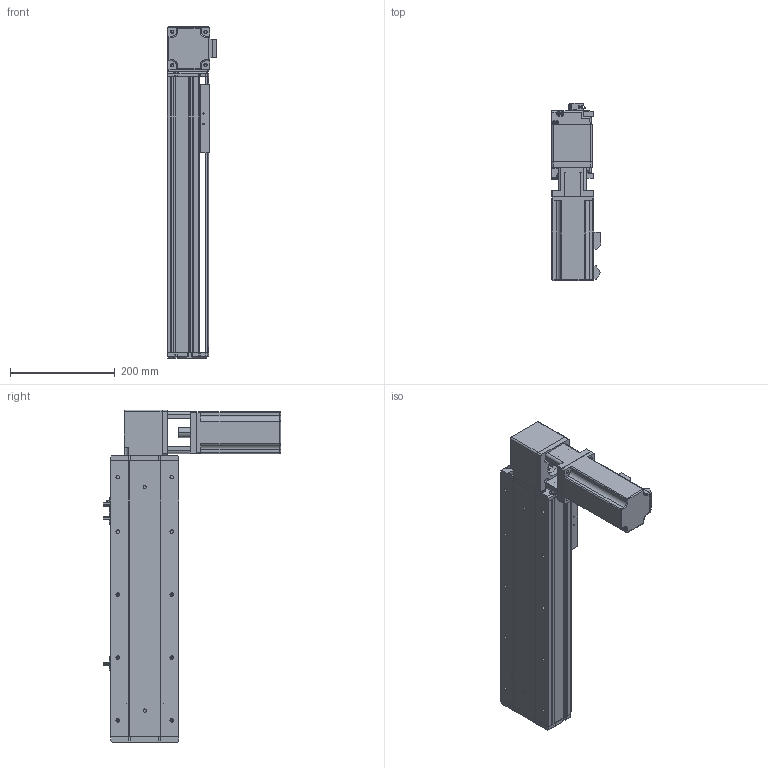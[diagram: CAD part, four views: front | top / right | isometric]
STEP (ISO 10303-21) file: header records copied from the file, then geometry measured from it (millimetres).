
FILE_DESCRIPTION (( 'STEP AP214' ), '1' );
FILE_NAME ('KSD130B-S300-MLT-CM.STEP', '2019-09-23T02:10:55', ( '微软用户' ), ( '微软中国' ), 'SwSTEP 2.0', 'SolidWorks 2014', '' );
FILE_SCHEMA (( 'AUTOMOTIVE_DESIGN' ));
Length unit declared in the file: millimetre
Products named in the file (12): 侂狟750W侜督; 130宽马达安装板1-带电机座750W（1）; 覜茼え100遵圉猾敕; U倰嫖萇EEㄜSX672; 130宽安装板同步带带电机座750W; 130宽盖板半封闭同步带-300行程; 130宽马达安装板同步带左-改; 130宽马达安装板同步带半封闭; 130宽同步带安装座半封闭; 130宽端盖同步带半封闭; 130宽底板半封闭同步带-300行程; KSD130B-S300-MLT-CM
Assembly tree (13 placements, depth 2):
  KSD130B-S300-MLT-CM
    130宽底板半封闭同步带-300行程
    130宽端盖同步带半封闭
    130宽同步带安装座半封闭
    130宽马达安装板同步带半封闭
    130宽马达安装板同步带左-改
    130宽盖板半封闭同步带-300行程
    130宽安装板同步带带电机座750W
    U倰嫖萇EEㄜSX672  x3
    覜茼え100遵圉猾敕
    130宽马达安装板1-带电机座750W（1）
    侂狟750W侜督
Bounding box: 94 x 337.7 x 633 mm (x, y, z)
Volume: 3197687.4 mm3; surface area: 738729 mm2
Topology: 13 solids, 13 shells, 1383 faces, 3843 edges, 2460 vertices
Faces by surface type: cylinder 635, plane 604, cone 128, torus 8, sphere 8
Entity records: 43171 total; most frequent: CARTESIAN_POINT 7636, DIRECTION 6719, ORIENTED_EDGE 6406, EDGE_CURVE 3203, AXIS2_PLACEMENT_3D 2435, VERTEX_POINT 2084, VECTOR 1849, LINE 1849
